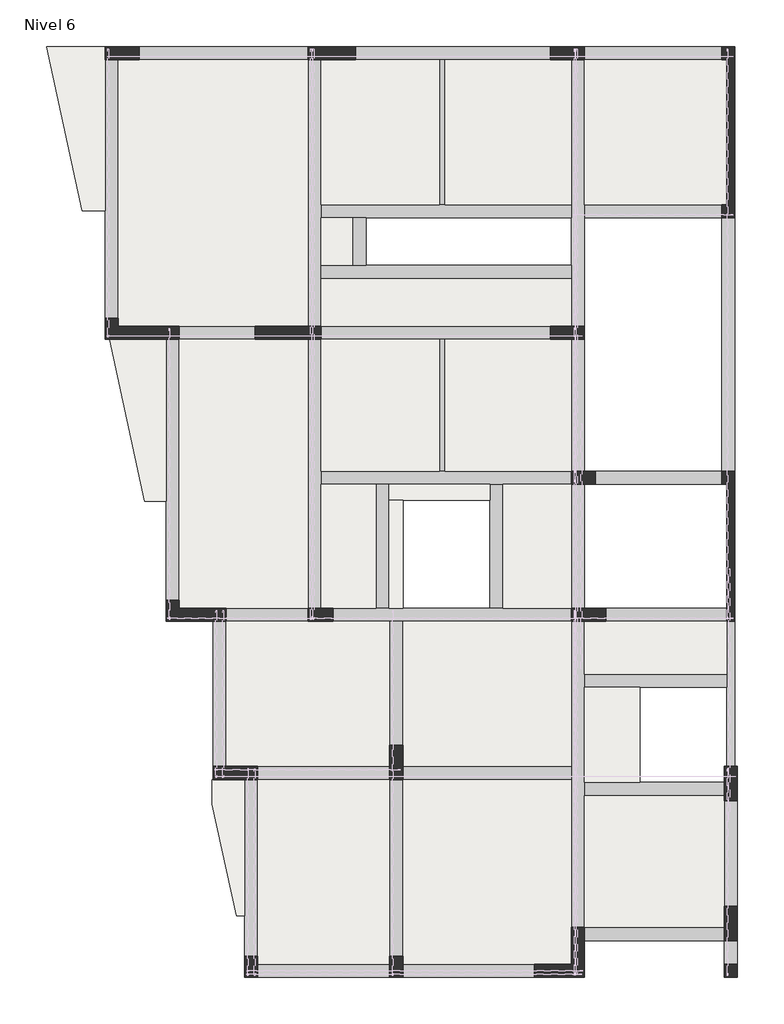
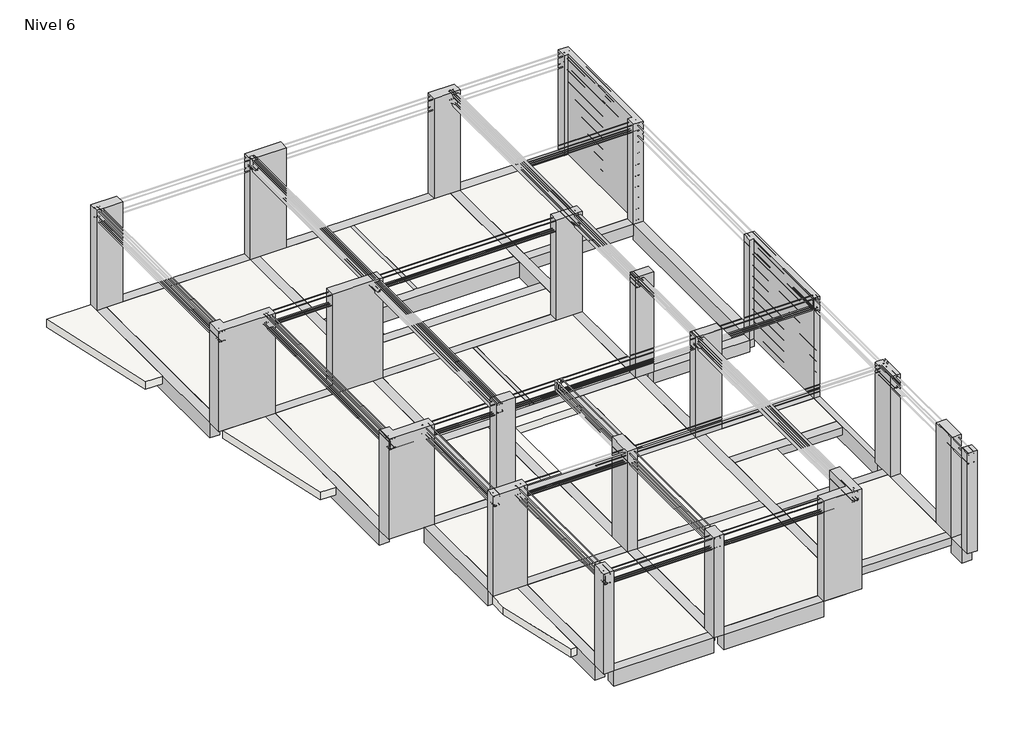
# One storey, part 1 of 3: 41 beams, 23 slabs, 20 columns.
"""IFC4 building model written with IfcOpenShell, lengths in millimetres."""

from ifc_helpers import new_model, si_unit, frame, origin, place, context, project, spatial, polyline, outline, extrude, faceted_brep, transform, mapped, element, save
from components import viga_rectangular_evg_rect_10x20cm_96cb2f61, viga_rectangular_evg_rect_10x20cm_86ed0425, viga_rectangular_evg_rect_15x40_cm_c549a8b6, viga_rectangular_evg_rect_25x20_cm_6cef108b, viga_rectangular_evg_rect_25x20_cm_76eb4939, viga_rectangular_evg_rect_25x20_cm_9c3e1b78, viga_rectangular_evg_rect_25x20_cm_ae20498b, viga_rectangular_evg_rect_25x20_cm_8c2ecc8d, viga_rectangular_evg_rect_25x20_cm_bb1ad2f1, viga_rectangular_evg_rect_25x30cm_620da6b6, viga_rectangular_evg_rect_25x30cm_a66d10a6, viga_rectangular_evg_rect_25x30cm_42a0b3f1, viga_rectangular_evg_rect_25x40_cm_2bdd148a, viga_rectangular_evg_rect_25x40_cm_41408228, viga_rectangular_evg_rect_25x40_cm_6a1f8600, viga_rectangular_evg_rect_25x40_cm_fbb3c78d, viga_rectangular_evg_rect_25x40_cm_da4bb42e, viga_rectangular_evg_rect_25x40_cm_90d5ee12, viga_rectangular_evg_rect_25x40_cm_d11aaed7, viga_rectangular_evg_rect_25x40_cm_ec8e30a6, viga_rectangular_evg_rect_25x40_cm_c621c72f, viga_rectangular_evg_rect_25x40_cm_b76ac871, viga_rectangular_evg_rect_25x40_cm_42ceb3dc, viga_rectangular_evg_rect_25x40_cm_400539a3, viga_rectangular_evg_rect_25x40_cm_b1d61e0d, viga_rectangular_evg_rect_25x40_cm_961303b6, viga_rectangular_evg_rect_25x40_cm_5bf8f6ca, viga_rectangular_evg_rect_25x40_cm_e96bc27a, viga_rectangular_evg_rect_25x40_cm_8e48b35e, viga_rectangular_evg_rect_25x40_cm_19945e5e, viga_rectangular_evg_rect_25x40_cm_a6a9dfc2, viga_rectangular_evg_rect_25x40_cm_73fd8fdc, viga_rectangular_evg_rect_25x40_cm_08c52653, viga_rectangular_evg_rect_25x40_cm_b007f258, viga_rectangular_evg_rect_25x40_cm_a9b09c48, viga_rectangular_evg_rect_25x40_cm_85c841cc, column_2b142d45, column_3eb6b615, column_6181a052, column_66ff7cc2, columna_estructural_rectangular_eco_rect_25x25_cm_03bc15f3, columna_estructural_u_eco_u_25x325x25x15_ae069314

model = new_model("IFC4")

# Units and contexts
model_context = context("Model", 3, world=origin())
ifc_project = project(units=[si_unit("LENGTHUNIT", "METRE", prefix="MILLI")], contexts=[model_context])

# Site, building, storey
site = spatial("IfcSite", under=ifc_project)
building = spatial("IfcBuilding", under=site)
storey = spatial("IfcBuildingStorey", under=building, Name="Nivel 6", Elevation=13350.0)

# Beams
placement = place(None, origin())
viga_rectangular_evg_rect_10x20cm_shape = viga_rectangular_evg_rect_10x20cm_96cb2f61(model_context)
element("IfcBeam", 1, ObjectType="Viga Rectangular : EVG_Rect 10x20cm", at=placement, inside=storey, context=model_context, shape_type="MappedRepresentation", body=[
    mapped(viga_rectangular_evg_rect_10x20cm_shape, transform((3750.0, 10850.0, 13350.0), x_axis=(0.0, 1.0, 0.0), y_axis=(-1.0, 0.0, 0.0), z_axis=(0.0, 0.0, 1.0))),
])
viga_rectangular_evg_rect_10x20cm_2_shape = viga_rectangular_evg_rect_10x20cm_86ed0425(model_context)
element("IfcBeam", 2, ObjectType="Viga Rectangular : EVG_Rect 10x20cm", at=placement, inside=storey, context=model_context, shape_type="MappedRepresentation", body=[
    mapped(viga_rectangular_evg_rect_10x20cm_2_shape, transform((3750.0, 16025.0, 13350.0), x_axis=(0.0, 1.0, 0.0), y_axis=(-1.0, 0.0, 0.0), z_axis=(0.0, 0.0, 1.0))),
])
viga_rectangular_evg_rect_15x40_cm_shape = viga_rectangular_evg_rect_15x40_cm_c549a8b6(model_context)
element("IfcBeam", 3, ObjectType="Viga Rectangular : EVG_Rect 15x40 cm", at=placement, inside=storey, context=model_context, shape_type="MappedRepresentation", body=[
    mapped(viga_rectangular_evg_rect_15x40_cm_shape, transform((9225.0, 5375.0, 13350.0), x_axis=(0.0, -1.0, 0.0), y_axis=(1.0, 0.0, 0.0), z_axis=(0.0, 0.0, 1.0))),
])
viga_rectangular_evg_rect_25x20_cm_shape = viga_rectangular_evg_rect_25x20_cm_6cef108b(model_context)
element("IfcBeam", 4, ObjectType="Viga Rectangular : EVG_Rect 25x20 cm", at=placement, inside=storey, context=model_context, shape_type="MappedRepresentation", body=[
    mapped(viga_rectangular_evg_rect_25x20_cm_shape, transform((6325.0, 8175.0, 13350.0), x_axis=(0.0, 1.0, 0.0), y_axis=(-1.0, 0.0, 0.0), z_axis=(0.0, 0.0, 1.0))),
])
element("IfcBeam", 5, ObjectType="Viga Rectangular : EVG_Rect 25x20 cm", at=placement, inside=storey, context=model_context, shape_type="MappedRepresentation", body=[
    mapped(viga_rectangular_evg_rect_25x20_cm_shape, transform((4774.9926226, 8175.0, 13350.0), x_axis=(0.0, -1.0, 0.0), y_axis=(1.0, 0.0, 0.0), z_axis=(0.0, 0.0, 1.0))),
])
viga_rectangular_evg_rect_25x20_cm_2_shape = viga_rectangular_evg_rect_25x20_cm_76eb4939(model_context)
element("IfcBeam", 6, ObjectType="Viga Rectangular : EVG_Rect 25x20 cm", at=placement, inside=storey, context=model_context, shape_type="MappedRepresentation", body=[
    mapped(viga_rectangular_evg_rect_25x20_cm_2_shape, transform((4600.0, 3875.0, 13350.0), x_axis=(1.0, 0.0, 0.0), y_axis=(0.0, 1.0, 0.0), z_axis=(0.0, 0.0, 1.0))),
])
viga_rectangular_evg_rect_25x20_cm_3_shape = viga_rectangular_evg_rect_25x20_cm_9c3e1b78(model_context)
element("IfcBeam", 7, ObjectType="Viga Rectangular : EVG_Rect 25x20 cm", at=placement, inside=storey, context=model_context, shape_type="MappedRepresentation", body=[
    mapped(viga_rectangular_evg_rect_25x20_cm_3_shape, transform((7775.0, 3574.6610156, 13350.0), x_axis=(1.0, 0.0, 0.0), y_axis=(0.0, 1.0, 0.0), z_axis=(0.0, 0.0, 1.0))),
])
element("IfcBeam", 8, ObjectType="Viga Rectangular : EVG_Rect 25x20 cm", at=placement, inside=storey, context=model_context, shape_type="MappedRepresentation", body=[
    mapped(viga_rectangular_evg_rect_25x20_cm_3_shape, transform((7775.0, 825.0, 13350.0), x_axis=(-1.0, 0.0, 0.0), y_axis=(0.0, -1.0, 0.0), z_axis=(0.0, 0.0, 1.0))),
])
viga_rectangular_evg_rect_25x20_cm_4_shape = viga_rectangular_evg_rect_25x20_cm_ae20498b(model_context)
element("IfcBeam", 9, ObjectType="Viga Rectangular : EVG_Rect 25x20 cm", at=placement, inside=storey, context=model_context, shape_type="MappedRepresentation", body=[
    mapped(viga_rectangular_evg_rect_25x20_cm_4_shape, transform((3825.0, 13375.0, 13350.0), x_axis=(-1.0, 0.0, 0.0), y_axis=(0.0, -1.0, 0.0), z_axis=(0.0, 0.0, 1.0))),
])
viga_rectangular_evg_rect_25x20_cm_5_shape = viga_rectangular_evg_rect_25x20_cm_8c2ecc8d(model_context)
element("IfcBeam", 10, ObjectType="Viga Rectangular : EVG_Rect 25x20 cm", at=placement, inside=storey, context=model_context, shape_type="MappedRepresentation", body=[
    mapped(viga_rectangular_evg_rect_25x20_cm_5_shape, transform((2175.0, 13950.0, 13350.0), x_axis=(0.0, 1.0, 0.0), y_axis=(-1.0, 0.0, 0.0), z_axis=(0.0, 0.0, 1.0))),
])
viga_rectangular_evg_rect_25x20_cm_6_shape = viga_rectangular_evg_rect_25x20_cm_bb1ad2f1(model_context)
element("IfcBeam", 11, ObjectType="Viga Rectangular : EVG_Rect 25x20 cm", at=placement, inside=storey, context=model_context, shape_type="MappedRepresentation", body=[
    mapped(viga_rectangular_evg_rect_25x20_cm_6_shape, transform((7775.0, 5625.3626818, 13350.0), x_axis=(1.0, 0.0, 0.0), y_axis=(0.0, 1.0, 0.0), z_axis=(0.0, 0.0, 1.0))),
])
element("IfcBeam", 12, ObjectType="Viga Rectangular : EVG_Rect 25x20 cm", at=placement, inside=storey, context=model_context, shape_type="MappedRepresentation", body=[
    mapped(viga_rectangular_evg_rect_25x20_cm_shape, transform((2615.0, 8175.0, 13350.0), x_axis=(0.0, 1.0, 0.0), y_axis=(-1.0, 0.0, 0.0), z_axis=(0.0, 0.0, 1.0))),
])
viga_rectangular_evg_rect_25x30cm_shape = viga_rectangular_evg_rect_25x30cm_620da6b6(model_context)
element("IfcBeam", 13, ObjectType="Viga Rectangular : EVG_Rect 25x30cm", at=placement, inside=storey, context=model_context, shape_type="MappedRepresentation", body=[
    mapped(viga_rectangular_evg_rect_25x30cm_shape, transform((7800.0, 9475.0, 13350.0), x_axis=(1.0, 0.0, 0.0), y_axis=(0.0, 1.0, 0.0), z_axis=(0.0, 0.0, 1.0))),
])
viga_rectangular_evg_rect_25x30cm_2_shape = viga_rectangular_evg_rect_25x30cm_a66d10a6(model_context)
element("IfcBeam", 14, ObjectType="Viga Rectangular : EVG_Rect 25x30cm", at=placement, inside=storey, context=model_context, shape_type="MappedRepresentation", body=[
    mapped(viga_rectangular_evg_rect_25x30cm_2_shape, transform((7750.0, 14525.0, 13350.0), x_axis=(-1.0, 0.0, 0.0), y_axis=(0.0, -1.0, 0.0), z_axis=(0.0, 0.0, 1.0))),
])
viga_rectangular_evg_rect_25x30cm_3_shape = viga_rectangular_evg_rect_25x30cm_42a0b3f1(model_context)
element("IfcBeam", 15, ObjectType="Viga Rectangular : EVG_Rect 25x30cm", at=placement, inside=storey, context=model_context, shape_type="MappedRepresentation", body=[
    mapped(viga_rectangular_evg_rect_25x30cm_3_shape, transform((3875.0, 9475.0, 13350.0), x_axis=(-1.0, 0.0, 0.0), y_axis=(0.0, -1.0, 0.0), z_axis=(0.0, 0.0, 1.0))),
])
viga_rectangular_evg_rect_25x40_cm_shape = viga_rectangular_evg_rect_25x40_cm_2bdd148a(model_context)
element("IfcBeam", 16, ObjectType="Viga Rectangular : EVG_Rect 25x40 cm", at=placement, inside=storey, context=model_context, shape_type="MappedRepresentation", body=[
    mapped(viga_rectangular_evg_rect_25x40_cm_shape, transform((6325.0, 3675.0, 13350.0), x_axis=(0.0, 1.0, 0.0), y_axis=(-1.0, 0.0, 0.0), z_axis=(0.0, 0.0, 1.0))),
])
viga_rectangular_evg_rect_25x40_cm_2_shape = viga_rectangular_evg_rect_25x40_cm_41408228(model_context)
element("IfcBeam", 17, ObjectType="Viga Rectangular : EVG_Rect 25x40 cm", at=placement, inside=storey, context=model_context, shape_type="MappedRepresentation", body=[
    mapped(viga_rectangular_evg_rect_25x40_cm_2_shape, transform((3425.0, 12225.0, 13350.0), x_axis=(-1.0, 0.0, 0.0), y_axis=(0.0, -1.0, 0.0), z_axis=(0.0, 0.0, 1.0))),
])
viga_rectangular_evg_rect_25x40_cm_3_shape = viga_rectangular_evg_rect_25x40_cm_6a1f8600(model_context)
element("IfcBeam", 18, ObjectType="Viga Rectangular : EVG_Rect 25x40 cm", at=placement, inside=storey, context=model_context, shape_type="MappedRepresentation", body=[
    mapped(viga_rectangular_evg_rect_25x40_cm_3_shape, transform((-560.0, 12225.0, 13350.0), x_axis=(1.0, 0.0, 0.0), y_axis=(0.0, 1.0, 0.0), z_axis=(0.0, 0.0, 1.0))),
])
viga_rectangular_evg_rect_25x40_cm_4_shape = viga_rectangular_evg_rect_25x40_cm_fbb3c78d(model_context)
element("IfcBeam", 19, ObjectType="Viga Rectangular : EVG_Rect 25x40 cm", at=placement, inside=storey, context=model_context, shape_type="MappedRepresentation", body=[
    mapped(viga_rectangular_evg_rect_25x40_cm_4_shape, transform((-337.5, 17525.0, 13350.0), x_axis=(1.0, 0.0, 0.0), y_axis=(0.0, 1.0, 0.0), z_axis=(0.0, 0.0, 1.0))),
])
viga_rectangular_evg_rect_25x40_cm_5_shape = viga_rectangular_evg_rect_25x40_cm_da4bb42e(model_context)
element("IfcBeam", 20, ObjectType="Viga Rectangular : EVG_Rect 25x40 cm", at=placement, inside=storey, context=model_context, shape_type="MappedRepresentation", body=[
    mapped(viga_rectangular_evg_rect_25x40_cm_5_shape, transform((3887.5, 17525.0, 13350.0), x_axis=(1.0, 0.0, 0.0), y_axis=(0.0, 1.0, 0.0), z_axis=(0.0, 0.0, 1.0))),
])
viga_rectangular_evg_rect_25x40_cm_6_shape = viga_rectangular_evg_rect_25x40_cm_90d5ee12(model_context)
element("IfcBeam", 21, ObjectType="Viga Rectangular : EVG_Rect 25x40 cm", at=placement, inside=storey, context=model_context, shape_type="MappedRepresentation", body=[
    mapped(viga_rectangular_evg_rect_25x40_cm_6_shape, transform((1350.0, 3875.0, 13350.0), x_axis=(1.0, 0.0, 0.0), y_axis=(0.0, 1.0, 0.0), z_axis=(0.0, 0.0, 1.0))),
])
viga_rectangular_evg_rect_25x40_cm_7_shape = viga_rectangular_evg_rect_25x40_cm_d11aaed7(model_context)
element("IfcBeam", 22, ObjectType="Viga Rectangular : EVG_Rect 25x40 cm", at=placement, inside=storey, context=model_context, shape_type="MappedRepresentation", body=[
    mapped(viga_rectangular_evg_rect_25x40_cm_7_shape, transform((1500.0, 125.0, 13350.0), x_axis=(-1.0, 0.0, 0.0), y_axis=(0.0, -1.0, 0.0), z_axis=(0.0, 0.0, 1.0))),
])
element("IfcBeam", 23, ObjectType="Viga Rectangular : EVG_Rect 25x40 cm", at=placement, inside=storey, context=model_context, shape_type="MappedRepresentation", body=[
    mapped(viga_rectangular_evg_rect_25x40_cm_7_shape, transform((6325.0, 10850.0, 13350.0), x_axis=(0.0, 1.0, 0.0), y_axis=(-1.0, 0.0, 0.0), z_axis=(0.0, 0.0, 1.0))),
])
viga_rectangular_evg_rect_25x40_cm_8_shape = viga_rectangular_evg_rect_25x40_cm_ec8e30a6(model_context)
element("IfcBeam", 24, ObjectType="Viga Rectangular : EVG_Rect 25x40 cm", at=placement, inside=storey, context=model_context, shape_type="MappedRepresentation", body=[
    mapped(viga_rectangular_evg_rect_25x40_cm_8_shape, transform((4600.0, 125.0, 13350.0), x_axis=(1.0, 0.0, 0.0), y_axis=(0.0, 1.0, 0.0), z_axis=(0.0, 0.0, 1.0))),
])
viga_rectangular_evg_rect_25x40_cm_9_shape = viga_rectangular_evg_rect_25x40_cm_c621c72f(model_context)
element("IfcBeam", 25, ObjectType="Viga Rectangular : EVG_Rect 25x40 cm", at=placement, inside=storey, context=model_context, shape_type="MappedRepresentation", body=[
    mapped(viga_rectangular_evg_rect_25x40_cm_9_shape, transform((125.0, 2037.5, 13350.0), x_axis=(0.0, 1.0, 0.0), y_axis=(-1.0, 0.0, 0.0), z_axis=(0.0, 0.0, 1.0))),
])
viga_rectangular_evg_rect_25x40_cm_10_shape = viga_rectangular_evg_rect_25x40_cm_b76ac871(model_context)
element("IfcBeam", 26, ObjectType="Viga Rectangular : EVG_Rect 25x40 cm", at=placement, inside=storey, context=model_context, shape_type="MappedRepresentation", body=[
    mapped(viga_rectangular_evg_rect_25x40_cm_10_shape, transform((2875.0, 2137.5, 13350.0), x_axis=(0.0, 1.0, 0.0), y_axis=(-1.0, 0.0, 0.0), z_axis=(0.0, 0.0, 1.0))),
])
viga_rectangular_evg_rect_25x40_cm_11_shape = viga_rectangular_evg_rect_25x40_cm_42ceb3dc(model_context)
element("IfcBeam", 27, ObjectType="Viga Rectangular : EVG_Rect 25x40 cm", at=placement, inside=storey, context=model_context, shape_type="MappedRepresentation", body=[
    mapped(viga_rectangular_evg_rect_25x40_cm_11_shape, transform((-475.0, 5375.0, 13350.0), x_axis=(0.0, 1.0, 0.0), y_axis=(-1.0, 0.0, 0.0), z_axis=(0.0, 0.0, 1.0))),
])
viga_rectangular_evg_rect_25x40_cm_12_shape = viga_rectangular_evg_rect_25x40_cm_400539a3(model_context)
element("IfcBeam", 28, ObjectType="Viga Rectangular : EVG_Rect 25x40 cm", at=placement, inside=storey, context=model_context, shape_type="MappedRepresentation", body=[
    mapped(viga_rectangular_evg_rect_25x40_cm_12_shape, transform((9225.0, 575.0, 13350.0), x_axis=(0.0, 1.0, 0.0), y_axis=(-1.0, 0.0, 0.0), z_axis=(0.0, 0.0, 1.0))),
])
viga_rectangular_evg_rect_25x40_cm_13_shape = viga_rectangular_evg_rect_25x40_cm_b1d61e0d(model_context)
element("IfcBeam", 29, ObjectType="Viga Rectangular : EVG_Rect 25x40 cm", at=placement, inside=storey, context=model_context, shape_type="MappedRepresentation", body=[
    mapped(viga_rectangular_evg_rect_25x40_cm_13_shape, transform((9225.0, 2350.0, 13350.0), x_axis=(0.0, 1.0, 0.0), y_axis=(-1.0, 0.0, 0.0), z_axis=(0.0, 0.0, 1.0))),
])
viga_rectangular_evg_rect_25x40_cm_14_shape = viga_rectangular_evg_rect_25x40_cm_961303b6(model_context)
element("IfcBeam", 30, ObjectType="Viga Rectangular : EVG_Rect 25x40 cm", at=placement, inside=storey, context=model_context, shape_type="MappedRepresentation", body=[
    mapped(viga_rectangular_evg_rect_25x40_cm_14_shape, transform((7875.0, 6875.0, 13350.0), x_axis=(1.0, 0.0, 0.0), y_axis=(0.0, 1.0, 0.0), z_axis=(0.0, 0.0, 1.0))),
])
viga_rectangular_evg_rect_25x40_cm_15_shape = viga_rectangular_evg_rect_25x40_cm_5bf8f6ca(model_context)
element("IfcBeam", 31, ObjectType="Viga Rectangular : EVG_Rect 25x40 cm", at=placement, inside=storey, context=model_context, shape_type="MappedRepresentation", body=[
    mapped(viga_rectangular_evg_rect_25x40_cm_15_shape, transform((-1365.0, 9587.5, 13350.0), x_axis=(0.0, 1.0, 0.0), y_axis=(-1.0, 0.0, 0.0), z_axis=(0.0, 0.0, 1.0))),
])
viga_rectangular_evg_rect_25x40_cm_16_shape = viga_rectangular_evg_rect_25x40_cm_e96bc27a(model_context)
element("IfcBeam", 32, ObjectType="Viga Rectangular : EVG_Rect 25x40 cm", at=placement, inside=storey, context=model_context, shape_type="MappedRepresentation", body=[
    mapped(viga_rectangular_evg_rect_25x40_cm_16_shape, transform((9175.0, 11985.0, 13350.0), x_axis=(0.0, 1.0, 0.0), y_axis=(-1.0, 0.0, 0.0), z_axis=(0.0, 0.0, 1.0))),
])
viga_rectangular_evg_rect_25x40_cm_17_shape = viga_rectangular_evg_rect_25x40_cm_8e48b35e(model_context)
element("IfcBeam", 33, ObjectType="Viga Rectangular : EVG_Rect 25x40 cm", at=placement, inside=storey, context=model_context, shape_type="MappedRepresentation", body=[
    mapped(viga_rectangular_evg_rect_25x40_cm_17_shape, transform((6325.0, 14875.0, 13350.0), x_axis=(0.0, 1.0, 0.0), y_axis=(-1.0, 0.0, 0.0), z_axis=(0.0, 0.0, 1.0))),
])
element("IfcBeam", 34, ObjectType="Viga Rectangular : EVG_Rect 25x40 cm", at=placement, inside=storey, context=model_context, shape_type="MappedRepresentation", body=[
    mapped(viga_rectangular_evg_rect_25x40_cm_17_shape, transform((1325.0, 14875.0, 13350.0), x_axis=(0.0, 1.0, 0.0), y_axis=(-1.0, 0.0, 0.0), z_axis=(0.0, 0.0, 1.0))),
])
viga_rectangular_evg_rect_25x40_cm_18_shape = viga_rectangular_evg_rect_25x40_cm_19945e5e(model_context)
element("IfcBeam", 35, ObjectType="Viga Rectangular : EVG_Rect 25x40 cm", at=placement, inside=storey, context=model_context, shape_type="MappedRepresentation", body=[
    mapped(viga_rectangular_evg_rect_25x40_cm_18_shape, transform((-2525.0, 14912.5, 13350.0), x_axis=(0.0, 1.0, 0.0), y_axis=(-1.0, 0.0, 0.0), z_axis=(0.0, 0.0, 1.0))),
])
viga_rectangular_evg_rect_25x40_cm_19_shape = viga_rectangular_evg_rect_25x40_cm_a6a9dfc2(model_context)
element("IfcBeam", 36, ObjectType="Viga Rectangular : EVG_Rect 25x40 cm", at=placement, inside=storey, context=model_context, shape_type="MappedRepresentation", body=[
    mapped(viga_rectangular_evg_rect_25x40_cm_19_shape, transform((327.5, 6875.0, 13350.0), x_axis=(1.0, 0.0, 0.0), y_axis=(0.0, 1.0, 0.0), z_axis=(0.0, 0.0, 1.0))),
])
viga_rectangular_evg_rect_25x40_cm_20_shape = viga_rectangular_evg_rect_25x40_cm_73fd8fdc(model_context)
element("IfcBeam", 37, ObjectType="Viga Rectangular : EVG_Rect 25x40 cm", at=placement, inside=storey, context=model_context, shape_type="MappedRepresentation", body=[
    mapped(viga_rectangular_evg_rect_25x40_cm_20_shape, transform((3825.0, 14525.0, 13350.0), x_axis=(-1.0, 0.0, 0.0), y_axis=(0.0, -1.0, 0.0), z_axis=(0.0, 0.0, 1.0))),
])
viga_rectangular_evg_rect_25x40_cm_21_shape = viga_rectangular_evg_rect_25x40_cm_08c52653(model_context)
element("IfcBeam", 38, ObjectType="Viga Rectangular : EVG_Rect 25x40 cm", at=placement, inside=storey, context=model_context, shape_type="MappedRepresentation", body=[
    mapped(viga_rectangular_evg_rect_25x40_cm_21_shape, transform((2875.0, 5502.6028662, 13350.0), x_axis=(0.0, 1.0, 0.0), y_axis=(-1.0, 0.0, 0.0), z_axis=(0.0, 0.0, 1.0))),
])
viga_rectangular_evg_rect_25x40_cm_22_shape = viga_rectangular_evg_rect_25x40_cm_b007f258(model_context)
element("IfcBeam", 39, ObjectType="Viga Rectangular : EVG_Rect 25x40 cm", at=placement, inside=storey, context=model_context, shape_type="MappedRepresentation", body=[
    mapped(viga_rectangular_evg_rect_25x40_cm_22_shape, transform((1325.0, 9541.2430955, 13350.0), x_axis=(0.0, 1.0, 0.0), y_axis=(-1.0, 0.0, 0.0), z_axis=(0.0, 0.0, 1.0))),
])
viga_rectangular_evg_rect_25x40_cm_23_shape = viga_rectangular_evg_rect_25x40_cm_a9b09c48(model_context)
element("IfcBeam", 40, ObjectType="Viga Rectangular : EVG_Rect 25x40 cm", at=placement, inside=storey, context=model_context, shape_type="MappedRepresentation", body=[
    mapped(viga_rectangular_evg_rect_25x40_cm_23_shape, transform((4050.0, 6875.0, 13350.0), x_axis=(-1.0, 0.0, 0.0), y_axis=(0.0, -1.0, 0.0), z_axis=(0.0, 0.0, 1.0))),
])
viga_rectangular_evg_rect_25x40_cm_24_shape = viga_rectangular_evg_rect_25x40_cm_85c841cc(model_context)
element("IfcBeam", 41, ObjectType="Viga Rectangular : EVG_Rect 25x40 cm", at=placement, inside=storey, context=model_context, shape_type="MappedRepresentation", body=[
    mapped(viga_rectangular_evg_rect_25x40_cm_24_shape, transform((7675.0, 17525.0, 13350.0), x_axis=(1.0, 0.0, 0.0), y_axis=(0.0, 1.0, 0.0), z_axis=(0.0, 0.0, 1.0))),
])

# Columns
column_shape = column_2b142d45(model_context)
element("IfcColumn", 42, ObjectType="Columna Estructural Ele : ECO_Ele 40x141x25", at=placement, inside=storey, context=model_context, shape_type="MappedRepresentation", body=[
    mapped(column_shape, transform((-2525.0, 12225.0, 0.0), x_axis=(1.0, 0.0, 0.0), y_axis=(0.0, 1.0, 0.0), z_axis=(0.0, 0.0, 1.0))),
])
column_2_shape = column_3eb6b615(model_context)
element("IfcColumn", 43, ObjectType="Columna Estructural Ele : ECO_Ele 40x114x25", at=placement, inside=storey, context=model_context, shape_type="MappedRepresentation", body=[
    mapped(column_2_shape, transform((-1365.0, 6875.0, 0.0), x_axis=(1.0, 0.0, 0.0), y_axis=(0.0, 1.0, 0.0), z_axis=(0.0, 0.0, 1.0))),
])
column_3_shape = column_6181a052(model_context)
element("IfcColumn", 44, ObjectType="Columna Estructural Ele : ECO_Ele 25x285x25", at=placement, inside=storey, context=model_context, shape_type="MappedRepresentation", body=[
    mapped(column_3_shape, transform((9225.0, 9475.0, 0.0), x_axis=(0.0, -1.0, 0.0), y_axis=(1.0, 0.0, 0.0), z_axis=(0.0, 0.0, 1.0))),
])
column_4_shape = column_66ff7cc2(model_context)
element("IfcColumn", 45, ObjectType="Columna Estructural Ele : ECO_Ele 95x95x25", at=placement, inside=storey, context=model_context, shape_type="MappedRepresentation", body=[
    mapped(column_4_shape, transform((6325.0, 125.0, 0.0), x_axis=(0.0, 1.0, 0.0), y_axis=(-1.0, 0.0, 0.0), z_axis=(0.0, 0.0, 1.0))),
])
element("IfcColumn", 46, ObjectType="Columna Estructural Rectangular : ECO_Rect. 25x125 cm", at=placement, inside=storey, context=model_context, shape_type="Brep", body=[
    faceted_brep([(200.0, 12350.0, 13350.0), (1450.0, 12350.0, 13350.0), (1450.0, 12100.0, 13350.0), (200.0, 12100.0, 13350.0), (200.0, 12350.0, 16000.0), (1200.0, 12350.0, 16000.0), (1450.0, 12350.0, 16000.0), (1450.0, 12100.0, 16000.0), (1200.0, 12100.0, 16000.0), (200.0, 12100.0, 16000.0)], [[[0, 1, 2, 3]], [[4, 5, 6, 1, 0]], [[6, 7, 2, 1]], [[7, 8, 9, 3, 2]], [[9, 4, 0, 3]], [[4, 9, 8, 7, 6, 5]]]),
])
columna_estructural_rectangular_eco_rect_25x25_cm_shape = columna_estructural_rectangular_eco_rect_25x25_cm_03bc15f3(model_context)
element("IfcColumn", 47, ObjectType="Columna Estructural Rectangular : ECO_Rect. 25x25 cm", at=placement, inside=storey, context=model_context, shape_type="MappedRepresentation", body=[
    mapped(columna_estructural_rectangular_eco_rect_25x25_cm_shape, transform((9225.0, 125.0, 0.0), x_axis=(-1.0, 0.0, 0.0), y_axis=(0.0, -1.0, 0.0), z_axis=(0.0, 0.0, 1.0))),
])
element("IfcColumn", 48, ObjectType="Columna Estructural Rectangular : ECO_Rect. 25x40 cm", at=placement, inside=storey, context=model_context, shape_type="Brep", body=[
    faceted_brep([(0.0, 0.0, 13350.0), (0.0, 400.0, 13350.0), (250.0, 400.0, 13350.0), (250.0, 0.0, 13350.0), (0.0, 0.0, 16000.0), (0.0, 400.0, 16000.0), (250.0, 400.0, 16000.0), (250.0, 250.0, 16000.0), (250.0, 0.0, 16000.0)], [[[0, 1, 2, 3]], [[4, 5, 1, 0]], [[5, 6, 2, 1]], [[6, 7, 8, 3, 2]], [[8, 4, 0, 3]], [[4, 8, 7, 6, 5]]]),
])
element("IfcColumn", 49, ObjectType="Columna Estructural Rectangular : ECO_Rect. 25x40 cm", at=placement, inside=storey, context=model_context, shape_type="Brep", body=[
    faceted_brep([(2750.0, 0.0, 13350.0), (2750.0, 400.0, 13350.0), (3000.0, 400.0, 13350.0), (3000.0, 0.0, 13350.0), (2750.0, 0.0, 16000.0), (2750.0, 250.0, 16000.0), (2750.0, 400.0, 16000.0), (3000.0, 400.0, 16000.0), (3000.0, 250.0, 16000.0), (3000.0, 0.0, 16000.0)], [[[0, 1, 2, 3]], [[4, 5, 6, 1, 0]], [[6, 7, 2, 1]], [[7, 8, 9, 3, 2]], [[9, 4, 0, 3]], [[4, 9, 8, 7, 6, 5]]]),
])
element("IfcColumn", 50, ObjectType="Columna Estructural Rectangular : ECO_Rect. 25x45 cm", at=placement, inside=storey, context=model_context, shape_type="SweptSolid", body=[
    extrude(outline(polyline([(6200.0, 9600.0), (6650.0, 9600.0), (6650.0, 9350.0), (6200.0, 9350.0), (6200.0, 9600.0)])), frame((0.0, 0.0, 13350.0), z_axis=(0.0, 0.0, 1.0), x_axis=(1.0, 0.0, 0.0)), (0.0, 0.0, 1.0), 2650.0),
])
element("IfcColumn", 51, ObjectType="Columna Estructural Rectangular : ECO_Rect. 25x48 cm", at=placement, inside=storey, context=model_context, shape_type="Brep", body=[
    faceted_brep([(1200.0, 7000.0, 13350.0), (1680.0, 7000.0, 13350.0), (1680.0, 6750.0, 13350.0), (1200.0, 6750.0, 13350.0), (1200.0, 7000.0, 16000.0), (1450.0, 7000.0, 16000.0), (1680.0, 7000.0, 16000.0), (1680.0, 6750.0, 16000.0), (1200.0, 6750.0, 16000.0)], [[[0, 1, 2, 3]], [[4, 5, 6, 1, 0]], [[6, 7, 2, 1]], [[7, 8, 3, 2]], [[8, 4, 0, 3]], [[4, 8, 7, 6, 5]]]),
])
element("IfcColumn", 52, ObjectType="Columna Estructural Rectangular : ECO_Rect. 25x65 cm", at=placement, inside=storey, context=model_context, shape_type="Brep", body=[
    faceted_brep([(-2650.0, 17650.0, 13350.0), (-2000.0, 17650.0, 13350.0), (-2000.0, 17400.0, 13350.0), (-2650.0, 17400.0, 13350.0), (-2650.0, 17650.0, 16000.0), (-2000.0, 17650.0, 16000.0), (-2650.0, 17650.0, 15800.0), (-2000.0, 17400.0, 16000.0), (-2400.0, 17400.0, 16000.0), (-2650.0, 17400.0, 16000.0)], [[[0, 1, 2, 3]], [[4, 5, 1, 0, 6]], [[5, 7, 2, 1]], [[7, 8, 9, 3, 2]], [[9, 4, 6, 0, 3]], [[4, 9, 8, 7, 5]]]),
])
element("IfcColumn", 53, ObjectType="Columna Estructural Rectangular : ECO_Rect. 25x65 cm", at=placement, inside=storey, context=model_context, shape_type="Brep", body=[
    faceted_brep([(5800.0, 17650.0, 13350.0), (6450.0, 17650.0, 13350.0), (6450.0, 17400.0, 13350.0), (5800.0, 17400.0, 13350.0), (5800.0, 17650.0, 16000.0), (6450.0, 17650.0, 16000.0), (6450.0, 17400.0, 16000.0), (6200.0, 17400.0, 16000.0), (5800.0, 17400.0, 16000.0)], [[[0, 1, 2, 3]], [[4, 5, 1, 0]], [[5, 6, 2, 1]], [[6, 7, 8, 3, 2]], [[8, 4, 0, 3]], [[4, 8, 7, 6, 5]]]),
])
element("IfcColumn", 54, ObjectType="Columna Estructural Rectangular : ECO_Rect. 25x65 cm", at=placement, inside=storey, context=model_context, shape_type="Brep", body=[
    faceted_brep([(5800.0, 12350.0, 13350.0), (6450.0, 12350.0, 13350.0), (6450.0, 12100.0, 13350.0), (5800.0, 12100.0, 13350.0), (5800.0, 12350.0, 16000.0), (6200.0, 12350.0, 16000.0), (6450.0, 12350.0, 16000.0), (6450.0, 12100.0, 16000.0), (6200.0, 12100.0, 16000.0), (5800.0, 12100.0, 16000.0)], [[[0, 1, 2, 3]], [[4, 5, 6, 1, 0]], [[6, 7, 2, 1]], [[7, 8, 9, 3, 2]], [[9, 4, 0, 3]], [[4, 9, 8, 7, 6, 5]]]),
])
element("IfcColumn", 55, ObjectType="Columna Estructural Rectangular : ECO_Rect. 25x65 cm", at=placement, inside=storey, context=model_context, shape_type="Brep", body=[
    faceted_brep([(6200.0, 7000.0, 13350.0), (6850.0, 7000.0, 13350.0), (6850.0, 6750.0, 13350.0), (6200.0, 6750.0, 13350.0), (6200.0, 7000.0, 16000.0), (6850.0, 7000.0, 16000.0), (6850.0, 6750.0, 16000.0), (6450.0, 6750.0, 16000.0), (6200.0, 6750.0, 16000.0)], [[[0, 1, 2, 3]], [[4, 5, 1, 0]], [[5, 6, 2, 1]], [[6, 7, 8, 3, 2]], [[8, 4, 0, 3]], [[4, 8, 7, 6, 5]]]),
])
element("IfcColumn", 56, ObjectType="Columna Estructural Rectangular : ECO_Rect. 25x65 cm", at=placement, inside=storey, context=model_context, shape_type="Brep", body=[
    faceted_brep([(2750.0, 3750.0, 13350.0), (2750.0, 4400.0, 13350.0), (3000.0, 4400.0, 13350.0), (3000.0, 3750.0, 13350.0), (2750.0, 3750.0, 16000.0), (2750.0, 4000.0, 16000.0), (2750.0, 4400.0, 16000.0), (3000.0, 4400.0, 16000.0), (3000.0, 4000.0, 16000.0), (3000.0, 3750.0, 16000.0)], [[[0, 1, 2, 3]], [[4, 5, 6, 1, 0]], [[6, 7, 2, 1]], [[7, 8, 9, 3, 2]], [[9, 4, 0, 3]], [[4, 9, 8, 7, 6, 5]]]),
])
element("IfcColumn", 57, ObjectType="Columna Estructural Rectangular : ECO_Rect. 25x65 cm", at=placement, inside=storey, context=model_context, shape_type="Brep", body=[
    faceted_brep([(9100.0, 3350.0, 13350.0), (9100.0, 4000.0, 13350.0), (9350.0, 4000.0, 13350.0), (9350.0, 3350.0, 13350.0), (9100.0, 3350.0, 16000.0), (9100.0, 3750.0, 16000.0), (9100.0, 4000.0, 16000.0), (9150.0, 4000.0, 16000.0), (9350.0, 4000.0, 16000.0), (9350.0, 3350.0, 16000.0)], [[[0, 1, 2, 3]], [[4, 5, 6, 1, 0]], [[6, 7, 8, 2, 1]], [[8, 9, 3, 2]], [[9, 4, 0, 3]], [[4, 9, 8, 7, 6, 5]]]),
])
element("IfcColumn", 58, ObjectType="Columna Estructural Rectangular : ECO_Rect. 25x65 cm", at=placement, inside=storey, context=model_context, shape_type="Brep", body=[
    faceted_brep([(9100.0, 700.0, 13350.0), (9100.0, 1350.0, 13350.0), (9350.0, 1350.0, 13350.0), (9350.0, 700.0, 13350.0), (9100.0, 700.0, 16000.0), (9100.0, 950.0, 16000.0), (9100.0, 1350.0, 16000.0), (9350.0, 1350.0, 16000.0), (9350.0, 700.0, 16000.0)], [[[0, 1, 2, 3]], [[4, 5, 6, 1, 0]], [[6, 7, 2, 1]], [[7, 8, 3, 2]], [[8, 4, 0, 3]], [[4, 8, 7, 6, 5]]]),
])
element("IfcColumn", 59, ObjectType="Columna Estructural Rectangular : ECO_Rect. 25x85 cm", at=placement, inside=storey, context=model_context, shape_type="Brep", body=[
    faceted_brep([(-600.0, 4000.0, 13350.0), (250.0, 4000.0, 13350.0), (250.0, 3750.0, 13350.0), (-600.0, 3750.0, 13350.0), (-600.0, 4000.0, 16000.0), (-350.0, 4000.0, 16000.0), (250.0, 4000.0, 16000.0), (250.0, 3750.0, 16000.0), (0.0, 3750.0, 16000.0), (-600.0, 3750.0, 16000.0)], [[[0, 1, 2, 3]], [[4, 5, 6, 1, 0]], [[6, 7, 2, 1]], [[7, 8, 9, 3, 2]], [[9, 4, 0, 3]], [[4, 9, 8, 7, 6, 5]]]),
])
element("IfcColumn", 60, ObjectType="Columna Estructural Rectangular : ECO_Rect. 25x90 cm", at=placement, inside=storey, context=model_context, shape_type="Brep", body=[
    faceted_brep([(1200.0, 17650.0, 13350.0), (2100.0, 17650.0, 13350.0), (2100.0, 17400.0, 13350.0), (1200.0, 17400.0, 13350.0), (1200.0, 17650.0, 16000.0), (2100.0, 17650.0, 16000.0), (2100.0, 17400.0, 16000.0), (1450.0, 17400.0, 16000.0), (1200.0, 17400.0, 16000.0)], [[[0, 1, 2, 3]], [[4, 5, 1, 0]], [[5, 6, 2, 1]], [[6, 7, 8, 3, 2]], [[8, 4, 0, 3]], [[4, 8, 7, 6, 5]]]),
])
columna_estructural_u_eco_u_25x325x25x15_shape = columna_estructural_u_eco_u_25x325x25x15_ae069314(model_context)
element("IfcColumn", 61, ObjectType="Columna Estructural U : ECO_U 25x325x25x15", at=placement, inside=storey, context=model_context, shape_type="MappedRepresentation", body=[
    mapped(columna_estructural_u_eco_u_25x325x25x15_shape, transform((9225.0, 16025.0, 0.0), x_axis=(0.0, 1.0, 0.0), y_axis=(-1.0, 0.0, 0.0), z_axis=(0.0, 0.0, 1.0))),
])

# Slabs
element("IfcSlab", 62, ObjectType="ELA_Losa Aligerada e=20 cm", at=placement, inside=storey, context=model_context, shape_type="Brep", body=[
    faceted_brep([(1200.0, 17400.0, 13150.0), (1200.0, 12350.0, 13150.0), (-2400.0, 12350.0, 13150.0), (-2400.0, 17400.0, 13150.0), (1200.0, 17400.0, 13350.0), (-2000.0, 17400.0, 13350.0), (-2400.0, 17400.0, 13350.0), (-2400.0, 12350.0, 13350.0), (200.0, 12350.0, 13350.0), (1200.0, 12350.0, 13350.0)], [[[0, 1, 2, 3]], [[4, 5, 6, 7, 8, 9]], [[1, 0, 4, 9]], [[2, 1, 9, 8, 7]], [[3, 2, 7, 6]], [[0, 3, 6, 5, 4]]]),
])
element("IfcSlab", 63, ObjectType="ELA_Losa Aligerada e=20 cm", at=placement, inside=storey, context=model_context, shape_type="SweptSolid", body=[
    extrude(outline(polyline([(9150.0, 17400.0), (9150.0, 14650.0), (6450.0, 14650.0), (6450.0, 17400.0), (9150.0, 17400.0)])), frame((0.0, 0.0, 13150.0), z_axis=(0.0, 0.0, 1.0), x_axis=(1.0, 0.0, 0.0)), (0.0, 0.0, 1.0), 200.0),
])
element("IfcSlab", 64, ObjectType="ELA_Losa Aligerada e=20 cm", at=placement, inside=storey, context=model_context, shape_type="Brep", body=[
    faceted_brep([(1200.0, 12100.0, 13150.0), (1200.0, 7000.0, 13150.0), (-1240.0, 7000.0, 13150.0), (-1240.0, 12100.0, 13150.0), (1200.0, 12100.0, 13350.0), (200.0, 12100.0, 13350.0), (-1240.0, 12100.0, 13350.0), (-1240.0, 7000.0, 13350.0), (1200.0, 7000.0, 13350.0)], [[[0, 1, 2, 3]], [[4, 5, 6, 7, 8]], [[1, 0, 4, 8]], [[2, 1, 8, 7]], [[3, 2, 7, 6]], [[0, 3, 6, 5, 4]]]),
])
element("IfcSlab", 65, ObjectType="ELA_Losa Aligerada e=20 cm", at=placement, inside=storey, context=model_context, shape_type="SweptSolid", body=[
    extrude(outline(polyline([(3700.0, 12100.0), (3700.0, 9600.0), (1450.0, 9600.0), (1450.0, 12100.0), (3700.0, 12100.0)])), frame((0.0, 0.0, 13150.0), z_axis=(0.0, 0.0, 1.0), x_axis=(1.0, 0.0, 0.0)), (0.0, 0.0, 1.0), 200.0),
])
element("IfcSlab", 66, ObjectType="ELA_Losa Aligerada e=20 cm", at=placement, inside=storey, context=model_context, shape_type="Brep", body=[
    faceted_brep([(6200.0, 12100.0, 13150.0), (6200.0, 9600.0, 13150.0), (3800.0, 9600.0, 13150.0), (3800.0, 12100.0, 13150.0), (6200.0, 12100.0, 13350.0), (5800.0, 12100.0, 13350.0), (3800.0, 12100.0, 13350.0), (3800.0, 9600.0, 13350.0), (6200.0, 9600.0, 13350.0)], [[[0, 1, 2, 3]], [[4, 5, 6, 7, 8]], [[1, 0, 4, 8]], [[2, 1, 8, 7]], [[3, 2, 7, 6]], [[0, 3, 6, 5, 4]]]),
])
element("IfcSlab", 67, ObjectType="ELA_Losa Aligerada e=20 cm", at=placement, inside=storey, context=model_context, shape_type="Brep", body=[
    faceted_brep([(2750.0, 6750.0, 13150.0), (2750.0, 4000.0, 13150.0), (-350.0, 4000.0, 13150.0), (-350.0, 6750.0, 13150.0), (2750.0, 6750.0, 13350.0), (1680.0, 6750.0, 13350.0), (1200.0, 6750.0, 13350.0), (-350.0, 6750.0, 13350.0), (-350.0, 4000.0, 13350.0), (250.0, 4000.0, 13350.0), (2750.0, 4000.0, 13350.0), (2750.0, 4400.0, 13350.0)], [[[0, 1, 2, 3]], [[4, 5, 6, 7, 8, 9, 10, 11]], [[1, 0, 4, 11, 10]], [[2, 1, 10, 9, 8]], [[3, 2, 8, 7]], [[0, 3, 7, 6, 5, 4]]]),
])
element("IfcSlab", 68, ObjectType="ELA_Losa Aligerada e=20 cm", at=placement, inside=storey, context=model_context, shape_type="Brep", body=[
    faceted_brep([(6200.0, 6750.0, 13150.0), (6200.0, 4000.0, 13150.0), (3000.0, 4000.0, 13150.0), (3000.0, 6750.0, 13150.0), (6200.0, 6750.0, 13350.0), (3000.0, 6750.0, 13350.0), (3000.0, 4400.0, 13350.0), (3000.0, 4000.0, 13350.0), (6200.0, 4000.0, 13350.0)], [[[0, 1, 2, 3]], [[4, 5, 6, 7, 8]], [[1, 0, 4, 8]], [[2, 1, 8, 7]], [[3, 2, 7, 6, 5]], [[0, 3, 5, 4]]]),
])
element("IfcSlab", 69, ObjectType="ELA_Losa Aligerada e=20 cm", at=placement, inside=storey, context=model_context, shape_type="Brep", body=[
    faceted_brep([(2750.0, 3750.0, 13150.0), (2750.0, 250.0, 13150.0), (250.0, 250.0, 13150.0), (250.0, 3750.0, 13150.0), (2750.0, 3750.0, 13350.0), (250.0, 3750.0, 13350.0), (250.0, 400.0, 13350.0), (250.0, 250.0, 13350.0), (2750.0, 250.0, 13350.0), (2750.0, 400.0, 13350.0)], [[[0, 1, 2, 3]], [[4, 5, 6, 7, 8, 9]], [[1, 0, 4, 9, 8]], [[2, 1, 8, 7]], [[3, 2, 7, 6, 5]], [[0, 3, 5, 4]]]),
])
element("IfcSlab", 70, ObjectType="ELA_Losa Aligerada e=20 cm", at=placement, inside=storey, context=model_context, shape_type="Brep", body=[
    faceted_brep([(6200.0, 3750.0, 13150.0), (6200.0, 250.0, 13150.0), (3000.0, 250.0, 13150.0), (3000.0, 3750.0, 13150.0), (6200.0, 3750.0, 13350.0), (3000.0, 3750.0, 13350.0), (3000.0, 400.0, 13350.0), (3000.0, 250.0, 13350.0), (6200.0, 250.0, 13350.0)], [[[0, 1, 2, 3]], [[4, 5, 6, 7, 8]], [[1, 0, 4, 8]], [[2, 1, 8, 7]], [[3, 2, 7, 6, 5]], [[0, 3, 5, 4]]]),
])
element("IfcSlab", 71, ObjectType="ELA_Losa Aligerada e=20 cm", at=placement, inside=storey, context=model_context, shape_type="Brep", body=[
    faceted_brep([(9100.0, 3449.6610156, 13150.0), (9100.0, 950.0, 13150.0), (6450.0, 950.0, 13150.0), (6450.0, 3449.6610156, 13150.0), (9100.0, 3449.6610156, 13350.0), (6450.0, 3449.6610156, 13350.0), (6450.0, 950.0, 13350.0), (9100.0, 950.0, 13350.0), (9100.0, 1350.0, 13350.0), (9100.0, 3350.0, 13350.0)], [[[0, 1, 2, 3]], [[4, 5, 6, 7, 8, 9]], [[1, 0, 4, 9, 8, 7]], [[2, 1, 7, 6]], [[3, 2, 6, 5]], [[0, 3, 5, 4]]]),
])
element("IfcSlab", 72, ObjectType="ELA_Losa Aligerada e=20 cm", at=placement, inside=storey, context=model_context, shape_type="Brep", body=[
    faceted_brep([(3800.0, 17400.0, 13150.0), (6200.0, 17400.0, 13150.0), (6200.0, 14650.0, 13150.0), (3800.0, 14650.0, 13150.0), (3800.0, 17400.0, 13350.0), (3800.0, 14650.0, 13350.0), (6200.0, 14650.0, 13350.0), (6200.0, 17400.0, 13350.0), (5800.0, 17400.0, 13350.0)], [[[0, 1, 2, 3]], [[4, 5, 6, 7, 8]], [[1, 0, 4, 8, 7]], [[2, 1, 7, 6]], [[3, 2, 6, 5]], [[0, 3, 5, 4]]]),
])
element("IfcSlab", 73, ObjectType="ELA_Losa Aligerada e=20 cm", at=placement, inside=storey, context=model_context, shape_type="Brep", body=[
    faceted_brep([(3700.0, 17400.0, 13150.0), (3700.0, 14650.0, 13150.0), (1450.0, 14650.0, 13150.0), (1450.0, 17400.0, 13150.0), (3700.0, 17400.0, 13350.0), (2100.0, 17400.0, 13350.0), (1450.0, 17400.0, 13350.0), (1450.0, 14650.0, 13350.0), (3700.0, 14650.0, 13350.0)], [[[0, 1, 2, 3]], [[4, 5, 6, 7, 8]], [[0, 3, 6, 5, 4]], [[3, 2, 7, 6]], [[2, 1, 8, 7]], [[1, 0, 4, 8]]]),
])
element("IfcSlab", 74, ObjectType="ELA_Losa Aligerada e=20 cm", at=placement, inside=storey, context=model_context, shape_type="Brep", body=[
    faceted_brep([(6200.0, 13250.0, 13150.0), (6200.0, 12350.0, 13150.0), (1450.0, 12350.0, 13150.0), (1450.0, 13250.0, 13150.0), (6200.0, 13250.0, 13350.0), (1450.0, 13250.0, 13350.0), (1450.0, 12350.0, 13350.0), (5800.0, 12350.0, 13350.0), (6200.0, 12350.0, 13350.0)], [[[0, 1, 2, 3]], [[4, 5, 6, 7, 8]], [[1, 0, 4, 8]], [[2, 1, 8, 7, 6]], [[3, 2, 6, 5]], [[0, 3, 5, 4]]]),
])
element("IfcSlab", 75, ObjectType="ELA_Losa Aligerada e=20 cm", at=placement, inside=storey, context=model_context, shape_type="SweptSolid", body=[
    extrude(outline(polyline([(2050.0, 14400.0), (2050.0, 13500.0), (1450.0, 13500.0), (1450.0, 14400.0), (2050.0, 14400.0)])), frame((0.0, 0.0, 13150.0), z_axis=(0.0, 0.0, 1.0), x_axis=(1.0, 0.0, 0.0)), (0.0, 0.0, 1.0), 200.0),
])
element("IfcSlab", 76, ObjectType="ELA_Losa Aligerada e=20 cm", at=placement, inside=storey, context=model_context, shape_type="SweptSolid", body=[
    extrude(outline(polyline([(6200.0, 9350.0), (6200.0, 7000.0), (4899.9926226, 7000.0), (4899.9926226, 9350.0), (6200.0, 9350.0)])), frame((0.0, 0.0, 13150.0), z_axis=(0.0, 0.0, 1.0), x_axis=(1.0, 0.0, 0.0)), (0.0, 0.0, 1.0), 200.0),
])
element("IfcSlab", 77, ObjectType="ELA_Losa Aligerada e=20 cm", at=placement, inside=storey, context=model_context, shape_type="Brep", body=[
    faceted_brep([(1450.0, 9350.0, 13150.0), (2490.0, 9350.0, 13150.0), (2490.0, 7000.0, 13150.0), (1450.0, 7000.0, 13150.0), (1450.0, 9350.0, 13350.0), (1450.0, 7000.0, 13350.0), (1680.0, 7000.0, 13350.0), (2490.0, 7000.0, 13350.0), (2490.0, 9350.0, 13350.0)], [[[0, 1, 2, 3]], [[4, 5, 6, 7, 8]], [[1, 0, 4, 8]], [[2, 1, 8, 7]], [[3, 2, 7, 6, 5]], [[0, 3, 5, 4]]]),
])
element("IfcSlab", 78, ObjectType="ELA_Losa Aligerada e=20 cm", at=placement, inside=storey, context=model_context, shape_type="SweptSolid", body=[
    extrude(outline(polyline([(2740.0, 9049.6373182), (2740.0, 9350.0), (4649.9926226, 9350.0), (4649.9926226, 9049.6373182), (2740.0, 9049.6373182)])), frame((0.0, 0.0, 13150.0), z_axis=(0.0, 0.0, 1.0), x_axis=(1.0, 0.0, 0.0)), (0.0, 0.0, 1.0), 200.0),
])
element("IfcSlab", 79, ObjectType="ELA_Losa Aligerada e=20 cm", at=placement, inside=storey, context=model_context, shape_type="SweptSolid", body=[
    extrude(outline(polyline([(7499.9920418, 3699.6610156), (6450.0, 3699.6610156), (6450.0, 5500.3626818), (7499.9920418, 5500.3626818), (7499.9920418, 3699.6610156)])), frame((0.0, 0.0, 13150.0), z_axis=(0.0, 0.0, 1.0), x_axis=(1.0, 0.0, 0.0)), (0.0, 0.0, 1.0), 200.0),
])
element("IfcSlab", 80, ObjectType="ELA_Losa Aligerada e=20 cm", at=placement, inside=storey, context=model_context, shape_type="Brep", body=[
    faceted_brep([(9150.0, 5750.3626818, 13150.0), (6450.0, 5750.3626818, 13150.0), (6450.0, 6750.0, 13150.0), (9150.0, 6750.0, 13150.0), (9150.0, 5750.3626818, 13350.0), (9150.0, 6750.0, 13350.0), (6850.0, 6750.0, 13350.0), (6450.0, 6750.0, 13350.0), (6450.0, 5750.3626818, 13350.0)], [[[0, 1, 2, 3]], [[4, 5, 6, 7, 8]], [[1, 0, 4, 8]], [[2, 1, 8, 7]], [[3, 2, 7, 6, 5]], [[0, 3, 5, 4]]]),
])
element("IfcSlab", 81, ObjectType="ELA_Losa Aligerada e=20 cm", at=placement, inside=storey, context=model_context, shape_type="Brep", body=[
    faceted_brep([(0.0, 1170.0, 13150.0), (-156.044349, 1170.0, 13150.0), (-615.0, 3286.888468, 13150.0), (-615.0, 3750.0, 13150.0), (0.0, 3750.0, 13150.0), (0.0, 1170.0, 13350.0), (0.0, 3750.0, 13350.0), (-600.0, 3750.0, 13350.0), (-615.0, 3750.0, 13350.0), (-615.0, 3286.888468, 13350.0), (-156.044349, 1170.0, 13350.0)], [[[0, 1, 2, 3, 4]], [[5, 6, 7, 8, 9, 10]], [[1, 0, 5, 10]], [[2, 1, 10, 9]], [[3, 2, 9, 8]], [[4, 3, 8, 7, 6]], [[0, 4, 6, 5]]]),
])
element("IfcSlab", 82, ObjectType="ELA_Losa Aligerada e=20 cm", at=placement, inside=storey, context=model_context, shape_type="SweptSolid", body=[
    extrude(outline(polyline([(3000.0, 7000.0), (2740.0, 7000.0), (2740.0, 9050.3626818), (3000.0, 9050.3626818), (3000.0, 7000.0)])), frame((0.0, 0.0, 13150.0), z_axis=(0.0, 0.0, 1.0), x_axis=(1.0, 0.0, 0.0)), (0.0, 0.0, 1.0), 200.0),
])
element("IfcSlab", 83, ObjectType="ELA_Losa Aligerada e=20 cm", at=placement, inside=storey, context=model_context, shape_type="Brep", body=[
    faceted_brep([(-2650.0, 17650.0, 13150.0), (-2650.0, 14540.0, 13150.0), (-3086.3794384, 14540.0, 13150.0), (-3759.0967999, 17650.0, 13150.0), (-2650.0, 17650.0, 13350.0), (-3759.0967999, 17650.0, 13350.0), (-3086.3794384, 14540.0, 13350.0), (-2650.0, 14540.0, 13350.0), (-2650.0, 17400.0, 13350.0)], [[[0, 1, 2, 3]], [[4, 5, 6, 7, 8]], [[1, 0, 4, 8, 7]], [[2, 1, 7, 6]], [[3, 2, 6, 5]], [[0, 3, 5, 4]]]),
])
element("IfcSlab", 84, ObjectType="ELA_Losa Aligerada e=20 cm", at=placement, inside=storey, context=model_context, shape_type="SweptSolid", body=[
    extrude(outline(polyline([(-2558.5883252, 12100.0), (-1490.0, 12100.0), (-1490.0, 9025.720673), (-1893.5976251, 9025.720673), (-2558.5883252, 12100.0)])), frame((0.0, 0.0, 13150.0), z_axis=(0.0, 0.0, 1.0), x_axis=(1.0, 0.0, 0.0)), (0.0, 0.0, 1.0), 200.0),
])

save(model, "model.ifc")
